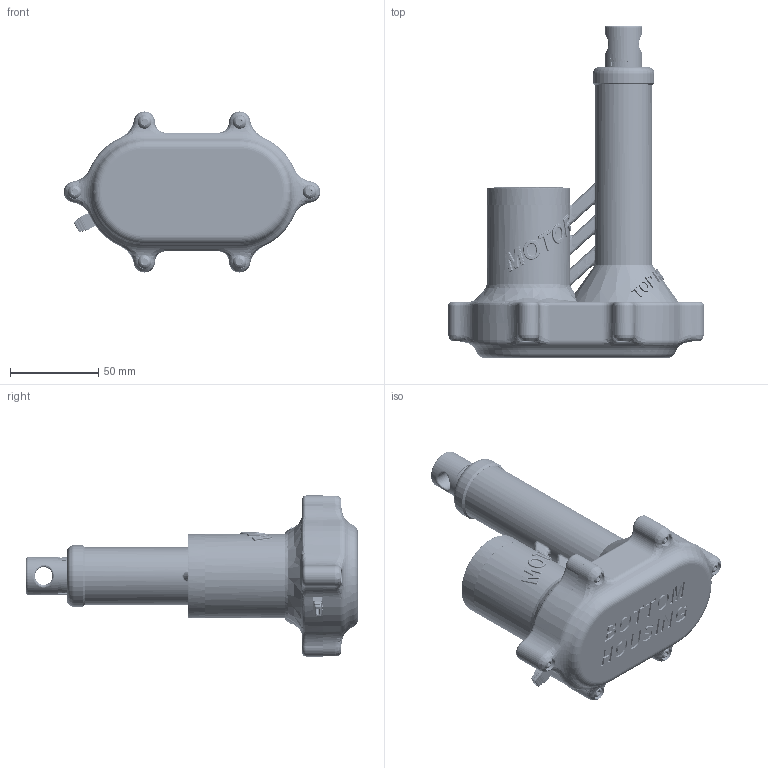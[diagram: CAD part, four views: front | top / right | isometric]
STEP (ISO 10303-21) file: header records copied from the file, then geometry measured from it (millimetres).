
FILE_DESCRIPTION(/* description */ (''),/* implementation_level */ '2;1');
FILE_NAME(/* name */ 'S.P.A.R.K CAD File v14.step',/* time_stamp */ '2024-01-18T22:02:01-05:00',/* author */ (''),/* organization */ (''),/* preprocessor_version */ 'ST-DEVELOPER v20',/* originating_system */ 'Autodesk Translation Framework v12.14.0.127',/* authorisation */ '');
FILE_SCHEMA (('AUTOMOTIVE_DESIGN { 1 0 10303 214 3 1 1 }'));
Length unit declared in the file: millimetre
Products named in the file (21): S.P.A.R.K CAD File; Thicker bottom housing; thicker top housing; 90593A003_Black-Oxide Steel Hex Nut; caps for nut; Wire Tail; Bearing; Helical Gear (MOTOR); Healical Gear (30R@30.00); Helical Gear (LEAD SCREW); Healical Gear (30R@30.00)_1; 90593A024_Black-Oxide Steel Hex Nut; 91290A017_Alloy Steel Socket Head Screw; LEAD screww; 12v Motor; cap for linear; Lead screw couplere; For coupler; Rod; 91239A148_Button Head Hex Drive Screw; Cap For Motor
Assembly tree (36 placements, depth 3):
  S.P.A.R.K CAD File
    Thicker bottom housing
    thicker top housing
      90593A003_Black-Oxide Steel Hex Nut  x6
      caps for nut  x6
      Wire Tail
    Bearing  x2
    Helical Gear (MOTOR)
      Healical Gear (30R@30.00)
    Helical Gear (LEAD SCREW)
      Healical Gear (30R@30.00)_1
      90593A024_Black-Oxide Steel Hex Nut
      91290A017_Alloy Steel Socket Head Screw
      LEAD screww
    12v Motor
    cap for linear
    Lead screw couplere
    For coupler
    Rod
    91239A148_Button Head Hex Drive Screw  x6
    Cap For Motor
Bounding box: 145.26 x 188.16 x 91.3 mm (x, y, z)
Volume: 386118.7 mm3; surface area: 171185.3 mm2
Topology: 40 solids, 40 shells, 4115 faces, 11287 edges, 7402 vertices
Faces by surface type: bspline 1787, cylinder 1019, plane 691, cone 451, torus 127, sphere 40
Full cylindrical faces by diameter (mm): 1.48 x78, 2 x81, 2.5 x6, 3.05 x4, 3.091 x102, 3.5 x8, 3.8 x3, 4 x117, 4.4 x18, 5.5 x53, 6 x1, 6.595 x6, 7 x2, 7.6 x6, 7.8 x6, 7.9 x2, 8 x39, 8.3 x8, 10 x4, 10.4 x1, 11 x4, 12 x2, 12.4 x1, 12.8 x1, 17.8 x1, 18 x1, 19.4 x4, 21.4 x1, 22 x3, 22.1 x1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
Entity records: 280991 total; most frequent: CARTESIAN_POINT 205137, ORIENTED_EDGE 19858, EDGE_CURVE 9929, DIRECTION 9294, VERTEX_POINT 6561, B_SPLINE_CURVE_WITH_KNOTS 5044, EDGE_LOOP 3782, FACE_OUTER_BOUND 3549
